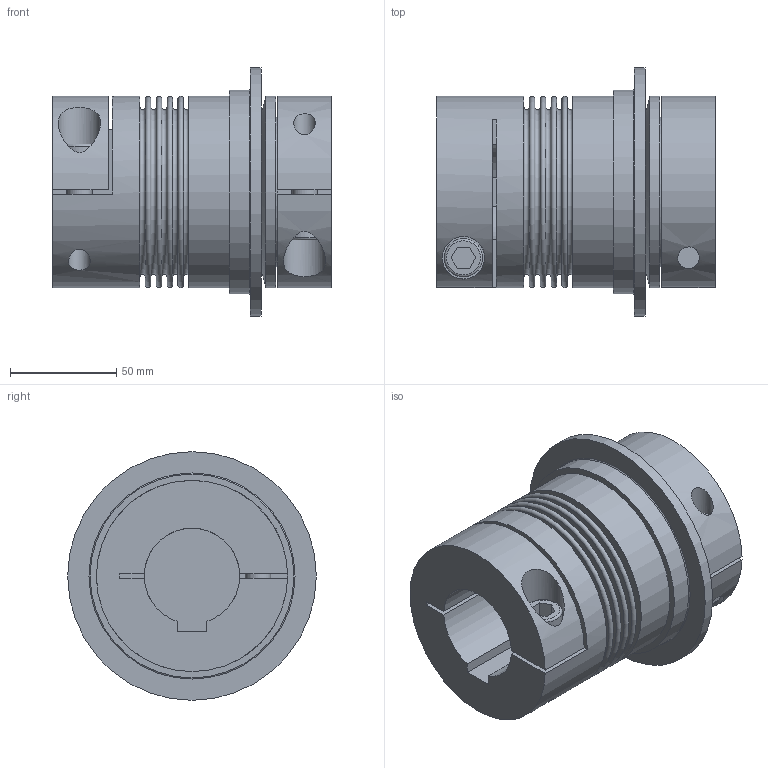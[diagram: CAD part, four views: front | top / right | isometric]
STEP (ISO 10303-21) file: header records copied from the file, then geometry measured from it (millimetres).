
FILE_DESCRIPTION(/* description */ ('STEP AP214'),/* implementation_level */ '2;1');
FILE_NAME(/* name */ 'C:\Diequa Files\DieQua Coupling\TB2\STP\TB2.200.131.F.#.#.stp',/* time_stamp */ '2019-04-26T10:40:43-05:00',/* author */ ('DiequaCAD'),/* organization */ (''),/* preprocessor_version */ 'ST-DEVELOPER v18',/* originating_system */ 'Autodesk Inventor 2020',/* authorisation */ ' ');
FILE_SCHEMA (('AUTOMOTIVE_DESIGN { 1 0 10303 214 3 1 1 }'));
Length unit declared in the file: millimetre
Products named in the file (1): TB2.200.131.F.#.#
Bounding box: 131 x 117 x 117 mm (x, y, z)
Volume: 687891.2 mm3; surface area: 106296.1 mm2
Topology: 1 solids, 1 shells, 90 faces, 212 edges, 148 vertices
Faces by surface type: plane 57, cylinder 20, torus 12, cone 1
Full cylindrical faces by diameter (mm): 10.2 x2, 12 x2, 13.5 x2, 18 x2, 20 x2, 71 x1, 90 x3, 96 x1, 117 x1
Entity records: 2857 total; most frequent: CARTESIAN_POINT 603, DIRECTION 491, ORIENTED_EDGE 424, EDGE_CURVE 212, AXIS2_PLACEMENT_3D 194, VERTEX_POINT 148, EDGE_LOOP 118, LINE 103
